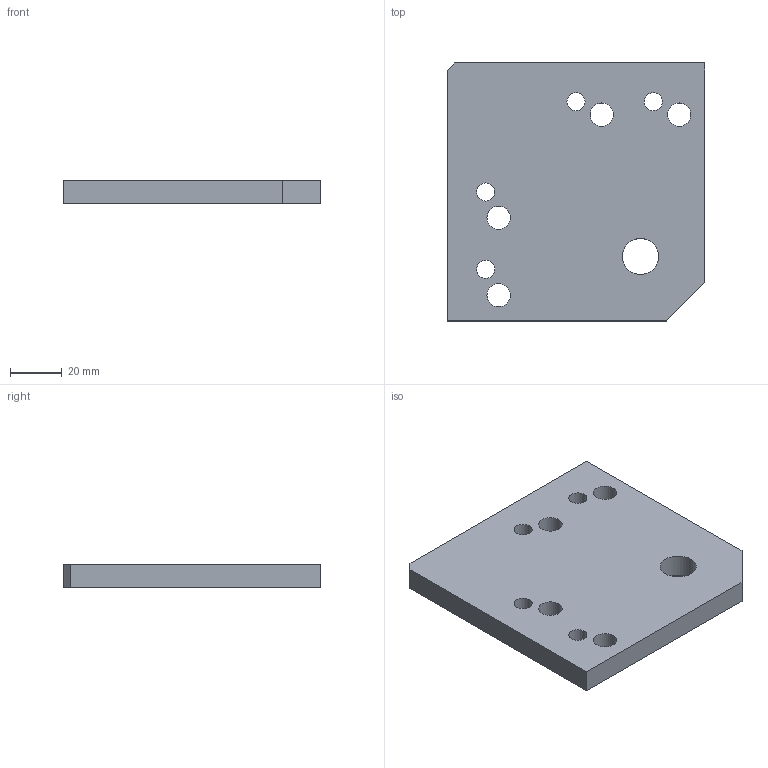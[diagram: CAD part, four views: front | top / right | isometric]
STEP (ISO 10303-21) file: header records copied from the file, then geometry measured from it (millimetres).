
FILE_DESCRIPTION(/* description */ (''),/* implementation_level */ '2;1');
FILE_NAME(/* name */ 'C:\Users\AMS43\Documents\Inventor\AMS\misumi\ベース\LFB-S68.ipt.stp',/* time_stamp */ '2016-10-03T17:12:11+09:00',/* author */ ('AMS43'),/* organization */ (''),/* preprocessor_version */ 'ST-DEVELOPER v15.2',/* originating_system */ 'Autodesk Inventor 2014',/* authorisation */ '');
FILE_SCHEMA (('AUTOMOTIVE_DESIGN { 1 0 10303 214 3 1 1 }'));
Length unit declared in the file: metre
Products named in the file (1): LFB-S68
Bounding box: 100 x 100 x 9 mm (x, y, z)
Volume: 83885.9 mm3; surface area: 24351.8 mm2
Topology: 1 solids, 1 shells, 17 faces, 45 edges, 30 vertices
Faces by surface type: cylinder 9, plane 8
Full cylindrical faces by diameter (mm): 7 x4, 9 x4, 14 x1
Entity records: 559 total; most frequent: DIRECTION 90, CARTESIAN_POINT 84, ORIENTED_EDGE 72, EDGE_LOOP 44, EDGE_CURVE 36, AXIS2_PLACEMENT_3D 36, VERTEX_POINT 30, FACE_BOUND 27
